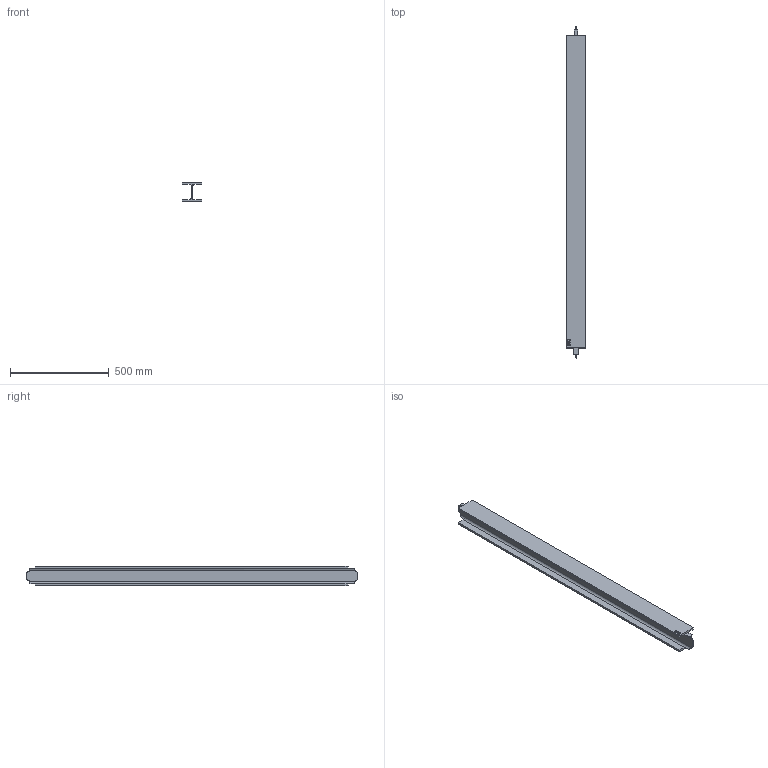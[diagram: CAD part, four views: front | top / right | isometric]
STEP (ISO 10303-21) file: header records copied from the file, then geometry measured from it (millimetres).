
FILE_DESCRIPTION (( 'STEP AP214' ), '1' );
FILE_NAME ('CCJ029-REP.060 - POUTRE SUPERIEURE B1-C1.STEP', '2025-02-13T09:32:15', ( '' ), ( '' ), 'SwSTEP 2.0', 'SolidWorks 2021', '' );
FILE_SCHEMA (( 'AUTOMOTIVE_DESIGN' ));
Length unit declared in the file: millimetre
Products named in the file (1): CCJ029-REP.060 - POUTRE SUPERIEURE B1-C1
Bounding box: 100 x 1678.5 x 100 mm (x, y, z)
Volume: 4159004.6 mm3; surface area: 918246.4 mm2
Topology: 1 solids, 1 shells, 66 faces, 174 edges, 116 vertices
Faces by surface type: plane 31, bspline 27, cylinder 8
Entity records: 4134 total; most frequent: CARTESIAN_POINT 2648, ORIENTED_EDGE 348, DIRECTION 208, EDGE_CURVE 174, VERTEX_POINT 116, LINE 96, VECTOR 96, EDGE_LOOP 72
